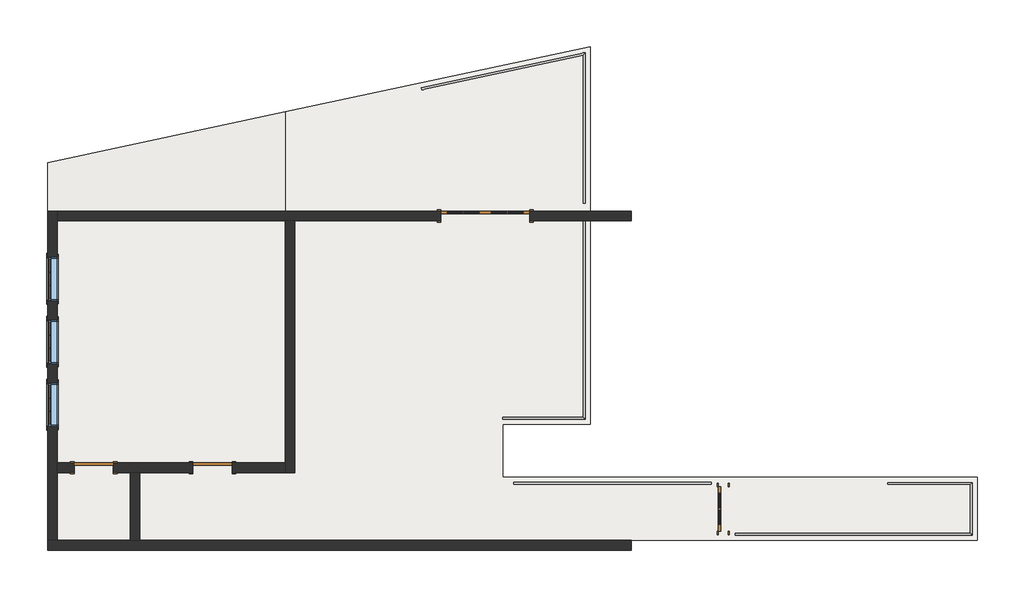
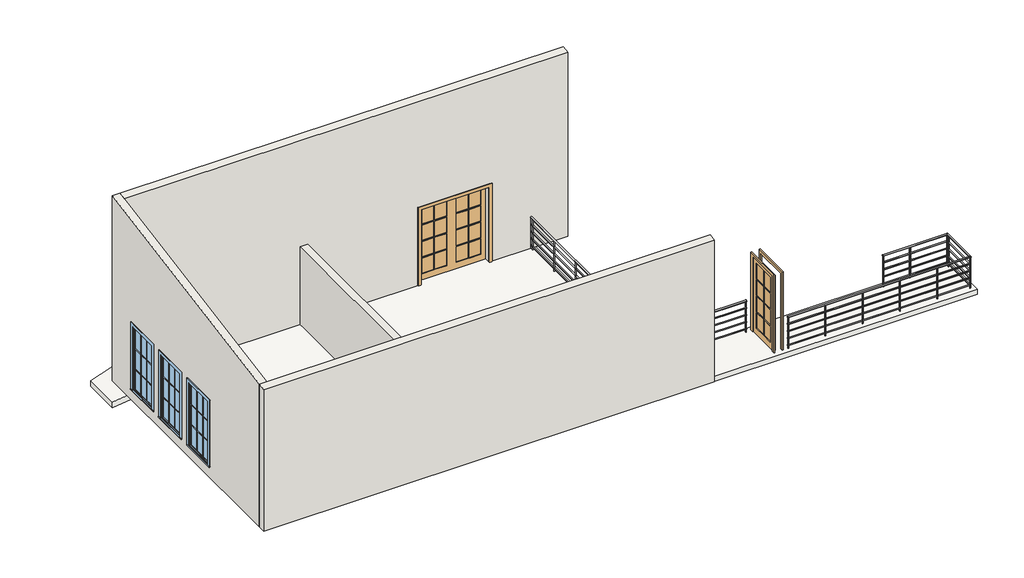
# One storey: 6 walls, 4 doors, 4 railings, 3 windows, 2 slabs.
"""IFC4 building model written with IfcOpenShell, lengths in millimetres."""

from ifc_helpers import new_model, si_unit, frame, origin, origin_with_axes, place, context, project, spatial, polyline, outline, extrude, faceted_brep, transform, mapped, element, save
from components import door_0813_x_2134mm_cbe18f88, door_0813_x_2134mm_c8a1819b, m_double_glass_2_1830_x_2134mm_c2fbe3d0, m_single_glass_2_0915_x_2134mm_549dff17, railing_19308ab3, railing_043cc620, railing_f8acf562, railing_6b8881b0, m_casement_3x3_with_trim_0915_x_1830mm_588b5be8

model = new_model("IFC4")

# Units and contexts
model_context = context("Model", 3, world=origin())
ifc_project = project(units=[si_unit("LENGTHUNIT", "METRE", prefix="MILLI")], contexts=[model_context])

# Site, building, storey
site = spatial("IfcSite", under=ifc_project)
building = spatial("IfcBuilding", under=site)
storey = spatial("IfcBuildingStorey", under=building, Name="02 入口樓層", Elevation=0.0)

# Doors
placement = place(None, origin())
door_0813_x_2134mm_shape = door_0813_x_2134mm_cbe18f88(model_context)
element("IfcDoor", 1, ObjectType="M_單個嵌平 : 0813 x 2134mm", at=placement, inside=storey, context=model_context, shape_type="MappedRepresentation", body=[
    mapped(door_0813_x_2134mm_shape, transform((-3047.0554883, -4249.1637817, 0.0), x_axis=(1.0, 0.0, 0.0), y_axis=(0.0, 1.0, 0.0), z_axis=(0.0, 0.0, 1.0))),
])
door_0813_x_2134mm_2_shape = door_0813_x_2134mm_c8a1819b(model_context)
element("IfcDoor", 2, ObjectType="M_單個嵌平 : 0813 x 2134mm", at=placement, inside=storey, context=model_context, shape_type="MappedRepresentation", body=[
    mapped(door_0813_x_2134mm_2_shape, transform((-5497.0554883, -4249.1637817, 0.0), x_axis=(-1.0, 0.0, 0.0), y_axis=(0.0, -1.0, 0.0), z_axis=(0.0, 0.0, 1.0))),
])
m_double_glass_2_1830_x_2134mm_shape = m_double_glass_2_1830_x_2134mm_c2fbe3d0(model_context)
element("IfcDoor", 3, ObjectType="M_Double-Glass 2 : 1830 x 2134mm", at=placement, inside=storey, context=model_context, shape_type="MappedRepresentation", body=[
    mapped(m_double_glass_2_1830_x_2134mm_shape, transform((2587.9445117, 950.8362183, 0.0), x_axis=(1.0, 0.0, 0.0), y_axis=(0.0, 1.0, 0.0), z_axis=(0.0, 0.0, 1.0))),
])
m_single_glass_2_0915_x_2134mm_shape = m_single_glass_2_0915_x_2134mm_549dff17(model_context)
element("IfcDoor", 4, ObjectType="M_Single-Glass 2 : 0915 x 2134mm", at=placement, inside=storey, context=model_context, shape_type="MappedRepresentation", body=[
    mapped(m_single_glass_2_0915_x_2134mm_shape, transform((7502.9445117, -5073.7637817, 0.0), x_axis=(0.0, -1.0, 0.0), y_axis=(1.0, 0.0, 0.0), z_axis=(0.0, 0.0, 1.0))),
])

# Railings
railing_shape = railing_19308ab3(model_context)
element("IfcRailing", 5, ObjectType="900mm 管", at=placement, inside=storey, context=model_context, shape_type="MappedRepresentation", body=[
    mapped(railing_shape, transform((0.0, 0.0, 0.0), x_axis=(1.0, 0.0, 0.0), y_axis=(0.0, 1.0, 0.0), z_axis=(0.0, 0.0, 1.0))),
])
railing_2_shape = railing_043cc620(model_context)
element("IfcRailing", 6, ObjectType="900mm 管", at=placement, inside=storey, context=model_context, shape_type="MappedRepresentation", body=[
    mapped(railing_2_shape, transform((0.0, 0.0, 0.0), x_axis=(1.0, 0.0, 0.0), y_axis=(0.0, 1.0, 0.0), z_axis=(0.0, 0.0, 1.0))),
])
railing_3_shape = railing_f8acf562(model_context)
element("IfcRailing", 7, ObjectType="900mm 管", at=placement, inside=storey, context=model_context, shape_type="MappedRepresentation", body=[
    mapped(railing_3_shape, transform((0.0, 0.0, 0.0), x_axis=(1.0, 0.0, 0.0), y_axis=(0.0, 1.0, 0.0), z_axis=(0.0, 0.0, 1.0))),
])
railing_4_shape = railing_6b8881b0(model_context)
element("IfcRailing", 8, ObjectType="900mm 管", at=placement, inside=storey, context=model_context, shape_type="MappedRepresentation", body=[
    mapped(railing_4_shape, transform((0.0, 0.0, 0.0), x_axis=(1.0, 0.0, 0.0), y_axis=(0.0, 1.0, 0.0), z_axis=(0.0, 0.0, 1.0))),
])

# Slabs
element("IfcSlab", 9, ObjectType="一般 150mm", at=placement, inside=storey, context=model_context, shape_type="SweptSolid", body=[
    extrude(outline(polyline([(4752.9445117, -3349.1637817), (2952.9445117, -3349.1637817), (2952.9445117, -4449.1637817), (4752.9445117, -4449.1637817), (12752.9445117, -4449.1637817), (12752.9445117, -5749.1637817), (-6247.0554883, -5749.1637817), (-6247.0554883, 850.8362183), (1672.9445117, 850.8362183), (1672.9445117, 1050.8362183), (-1547.0554883, 1050.8362183), (-1547.0554883, 3100.8362183), (4752.9445117, 4450.8362183), (4752.9445117, 1120.2953175), (4752.9445117, 1050.8362183), (3502.9445117, 1050.8362183), (3502.9445117, 850.8362183), (4752.9445117, 850.8362183), (4752.9445117, -3349.1637817)])), frame((0.0, 0.0, -150.0), z_axis=(0.0, 0.0, 1.0), x_axis=(1.0, 0.0, 0.0)), (0.0, 0.0, 1.0), 150.0),
])
element("IfcSlab", 10, ObjectType="一般 150mm", at=placement, inside=storey, context=model_context, shape_type="Brep", body=[
    faceted_brep([(-6447.0554883, 2050.8362183, -751.1203475), (-1547.0554883, 3100.8362183, -151.1203475), (-1547.0554883, 1050.8362183, -151.1203475), (-6447.0554883, 1050.8362183, -751.1203475), (-6447.0554883, 2050.8362183, -600.0), (-6447.0554883, 1050.8362183, -600.0), (-1547.0554883, 1050.8362183, 0.0), (-1547.0554883, 3100.8362183, 0.0)], [[[0, 1, 2, 3]], [[4, 5, 6, 7]], [[1, 0, 4, 7]], [[2, 1, 7, 6]], [[3, 2, 6, 5]], [[0, 3, 5, 4]]]),
])

# Walls
element("IfcWall", 11, ObjectType="牆 200mm", at=placement, inside=storey, context=model_context, shape_type="Brep", body=[
    faceted_brep([(5602.9445117, -5749.1637817, 0.0), (-4547.0554883, -5749.1637817, 0.0), (-4747.0554883, -5749.1637817, 0.0), (-6247.0554883, -5749.1637817, 0.0), (-6447.0554883, -5749.1637817, 0.0), (-6447.0554883, -5749.1637817, 4035.2653961), (-6247.0554883, -5749.1637817, 4035.2653961), (5602.9445117, -5749.1637817, 4035.2653961), (5602.9445117, -5949.1637817, 0.0), (5602.9445117, -5949.1637817, 4000.0), (-6447.0554883, -5949.1637817, 4000.0), (-6447.0554883, -5949.1637817, 0.0)], [[[0, 1, 2, 3, 4, 5, 6, 7]], [[8, 9, 10, 11]], [[4, 3, 2, 1, 0, 8, 11]], [[0, 7, 9, 8]], [[5, 4, 11, 10]], [[7, 6, 5, 10, 9]]]),
])
element("IfcWall", 12, ObjectType="牆 200mm", at=placement, inside=storey, context=model_context, shape_type="Brep", body=[
    faceted_brep([(-6247.0554883, -5749.1637817, 0.0), (-6247.0554883, -4349.1637817, 0.0), (-6247.0554883, -4149.1637817, 0.0), (-6247.0554883, 850.8362183, 0.0), (-6247.0554883, 1050.8362183, 0.0), (-6247.0554883, 1050.8362183, 5234.288865), (-6247.0554883, 850.8362183, 5199.0234688), (-6247.0554883, -5749.1637817, 4035.2653961), (-6247.0554883, -806.6637817, 2135.0), (-6247.0554883, 108.3362183, 2135.0), (-6247.0554883, 108.3362183, 305.0), (-6247.0554883, -806.6637817, 305.0), (-6247.0554883, -2106.6637817, 2135.0), (-6247.0554883, -1191.6637817, 2135.0), (-6247.0554883, -1191.6637817, 305.0), (-6247.0554883, -2106.6637817, 305.0), (-6247.0554883, -3406.6637817, 2135.0), (-6247.0554883, -2491.6637817, 2135.0), (-6247.0554883, -2491.6637817, 305.0), (-6247.0554883, -3406.6637817, 305.0), (-6447.0554883, -5749.1637817, 0.0), (-6447.0554883, -5749.1637817, 4035.2653961), (-6447.0554883, 1050.8362183, 5234.288865), (-6447.0554883, 1050.8362183, 0.0), (-6447.0554883, -806.6637817, 2135.0), (-6447.0554883, -806.6637817, 305.0), (-6447.0554883, 108.3362183, 305.0), (-6447.0554883, 108.3362183, 2135.0), (-6447.0554883, -2106.6637817, 2135.0), (-6447.0554883, -2106.6637817, 305.0), (-6447.0554883, -1191.6637817, 305.0), (-6447.0554883, -1191.6637817, 2135.0), (-6447.0554883, -3406.6637817, 2135.0), (-6447.0554883, -3406.6637817, 305.0), (-6447.0554883, -2491.6637817, 305.0), (-6447.0554883, -2491.6637817, 2135.0)], [[[0, 1, 2, 3, 4, 5, 6, 7], [8, 9, 10, 11], [12, 13, 14, 15], [16, 17, 18, 19]], [[20, 21, 22, 23], [24, 25, 26, 27], [28, 29, 30, 31], [32, 33, 34, 35]], [[4, 3, 2, 1, 0, 20, 23]], [[5, 4, 23, 22]], [[0, 7, 21, 20]], [[7, 6, 5, 22, 21]], [[25, 24, 8, 11]], [[26, 25, 11, 10]], [[27, 26, 10, 9]], [[24, 27, 9, 8]], [[29, 28, 12, 15]], [[30, 29, 15, 14]], [[31, 30, 14, 13]], [[28, 31, 13, 12]], [[33, 32, 16, 19]], [[34, 33, 19, 18]], [[35, 34, 18, 17]], [[32, 35, 17, 16]]]),
])
element("IfcWall", 13, ObjectType="牆 200mm", at=placement, inside=storey, context=model_context, shape_type="Brep", body=[
    faceted_brep([(3502.9445117, 850.8362183, 2134.0), (3502.9445117, 850.8362183, 0.0), (5602.9445117, 850.8362183, 0.0), (5602.9445117, 850.8362183, 5199.0234688), (-6247.0554883, 850.8362183, 5199.0234688), (-6247.0554883, 850.8362183, 0.0), (-1547.0554883, 850.8362183, 0.0), (-1347.0554883, 850.8362183, 0.0), (1672.9445117, 850.8362183, 0.0), (1672.9445117, 850.8362183, 2134.0), (5602.9445117, 1050.8362183, 0.0), (3502.9445117, 1050.8362183, 0.0), (3502.9445117, 1050.8362183, 2134.0), (1672.9445117, 1050.8362183, 2134.0), (1672.9445117, 1050.8362183, 0.0), (-6247.0554883, 1050.8362183, 0.0), (-6247.0554883, 1050.8362183, 5234.288865), (5602.9445117, 1050.8362183, 5234.288865)], [[[0, 1, 2, 3, 4, 5, 6, 7, 8, 9]], [[10, 11, 12, 13, 14, 15, 16, 17]], [[2, 1, 11, 10]], [[8, 7, 6, 5, 15, 14]], [[3, 2, 10, 17]], [[5, 4, 16, 15]], [[4, 3, 17, 16]], [[12, 11, 1, 0]], [[13, 12, 0, 9]], [[14, 13, 9, 8]]]),
])
element("IfcWall", 14, ObjectType="牆 200mm", at=placement, inside=storey, context=model_context, shape_type="Brep", body=[
    faceted_brep([(-1547.0554883, 850.8362183, 0.0), (-1547.0554883, -4149.1637817, 0.0), (-1547.0554883, -4349.1637817, 0.0), (-1547.0554883, -4349.1637817, 2200.0), (-1547.0554883, -4149.1637817, 2200.0), (-1547.0554883, 850.8362183, 2200.0), (-1347.0554883, 850.8362183, 0.0), (-1347.0554883, 850.8362183, 2200.0), (-1347.0554883, -4349.1637817, 2200.0), (-1347.0554883, -4349.1637817, 0.0)], [[[0, 1, 2, 3, 4, 5]], [[6, 7, 8, 9]], [[2, 1, 0, 6, 9]], [[5, 4, 3, 8, 7]], [[3, 2, 9, 8]], [[0, 5, 7, 6]]]),
])
element("IfcWall", 15, ObjectType="牆 200mm", at=placement, inside=storey, context=model_context, shape_type="Brep", body=[
    faceted_brep([(-5903.5554883, -4149.1637817, 2134.0), (-5903.5554883, -4149.1637817, 0.0), (-6247.0554883, -4149.1637817, 0.0), (-6247.0554883, -4149.1637817, 2200.0), (-1547.0554883, -4149.1637817, 2200.0), (-1547.0554883, -4149.1637817, 0.0), (-2640.5554883, -4149.1637817, 0.0), (-2640.5554883, -4149.1637817, 2134.0), (-3453.5554883, -4149.1637817, 2134.0), (-3453.5554883, -4149.1637817, 0.0), (-5090.5554883, -4149.1637817, 0.0), (-5090.5554883, -4149.1637817, 2134.0), (-6247.0554883, -4349.1637817, 0.0), (-5903.5554883, -4349.1637817, 0.0), (-5903.5554883, -4349.1637817, 2134.0), (-5090.5554883, -4349.1637817, 2134.0), (-5090.5554883, -4349.1637817, 0.0), (-4747.0554883, -4349.1637817, 0.0), (-4547.0554883, -4349.1637817, 0.0), (-3453.5554883, -4349.1637817, 0.0), (-3453.5554883, -4349.1637817, 2134.0), (-2640.5554883, -4349.1637817, 2134.0), (-2640.5554883, -4349.1637817, 0.0), (-1547.0554883, -4349.1637817, 0.0), (-1547.0554883, -4349.1637817, 2200.0), (-4547.0554883, -4349.1637817, 2200.0), (-4747.0554883, -4349.1637817, 2200.0), (-6247.0554883, -4349.1637817, 2200.0)], [[[0, 1, 2, 3, 4, 5, 6, 7, 8, 9, 10, 11]], [[12, 13, 14, 15, 16, 17, 18, 19, 20, 21, 22, 23, 24, 25, 26, 27]], [[23, 22, 6, 5]], [[2, 1, 13, 12]], [[10, 9, 19, 18, 17, 16]], [[4, 3, 27, 26, 25, 24]], [[5, 4, 24, 23]], [[3, 2, 12, 27]], [[7, 6, 22, 21]], [[8, 7, 21, 20]], [[9, 8, 20, 19]], [[14, 13, 1, 0]], [[15, 14, 0, 11]], [[16, 15, 11, 10]]]),
])
element("IfcWall", 16, ObjectType="牆 200mm", at=placement, inside=storey, context=model_context, shape_type="SweptSolid", body=[
    extrude(outline(polyline([(-4747.0554883, -5749.1637817), (-4747.0554883, -4349.1637817), (-4547.0554883, -4349.1637817), (-4547.0554883, -5749.1637817), (-4747.0554883, -5749.1637817)])), origin_with_axes(), (0.0, 0.0, 1.0), 2200.0),
])

# Windows
m_casement_3x3_with_trim_0915_x_1830mm_shape = m_casement_3x3_with_trim_0915_x_1830mm_588b5be8(model_context)
element("IfcWindow", 17, ObjectType="M_Casement 3x3 with Trim : 0915 x 1830mm", at=placement, inside=storey, context=model_context, shape_type="MappedRepresentation", body=[
    mapped(m_casement_3x3_with_trim_0915_x_1830mm_shape, transform((-6347.0554883, -349.1637817, 0.0), x_axis=(0.0, -1.0, 0.0), y_axis=(1.0, 0.0, 0.0), z_axis=(0.0, 0.0, 1.0))),
])
element("IfcWindow", 18, ObjectType="M_Casement 3x3 with Trim : 0915 x 1830mm", at=placement, inside=storey, context=model_context, shape_type="MappedRepresentation", body=[
    mapped(m_casement_3x3_with_trim_0915_x_1830mm_shape, transform((-6347.0554883, -1649.1637817, 0.0), x_axis=(0.0, -1.0, 0.0), y_axis=(1.0, 0.0, 0.0), z_axis=(0.0, 0.0, 1.0))),
])
element("IfcWindow", 19, ObjectType="M_Casement 3x3 with Trim : 0915 x 1830mm", at=placement, inside=storey, context=model_context, shape_type="MappedRepresentation", body=[
    mapped(m_casement_3x3_with_trim_0915_x_1830mm_shape, transform((-6347.0554883, -2949.1637817, 0.0), x_axis=(0.0, -1.0, 0.0), y_axis=(1.0, 0.0, 0.0), z_axis=(0.0, 0.0, 1.0))),
])

save(model, "model.ifc")
